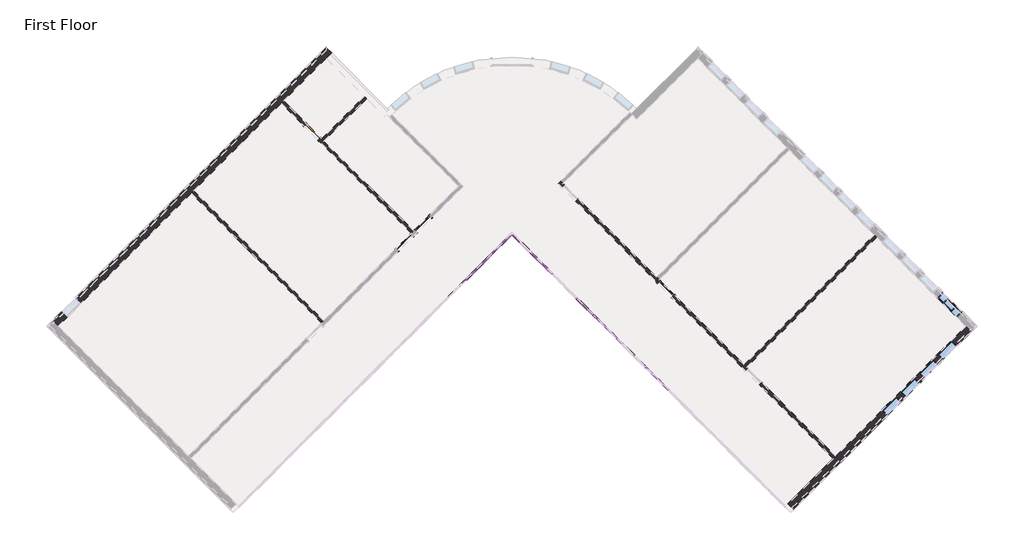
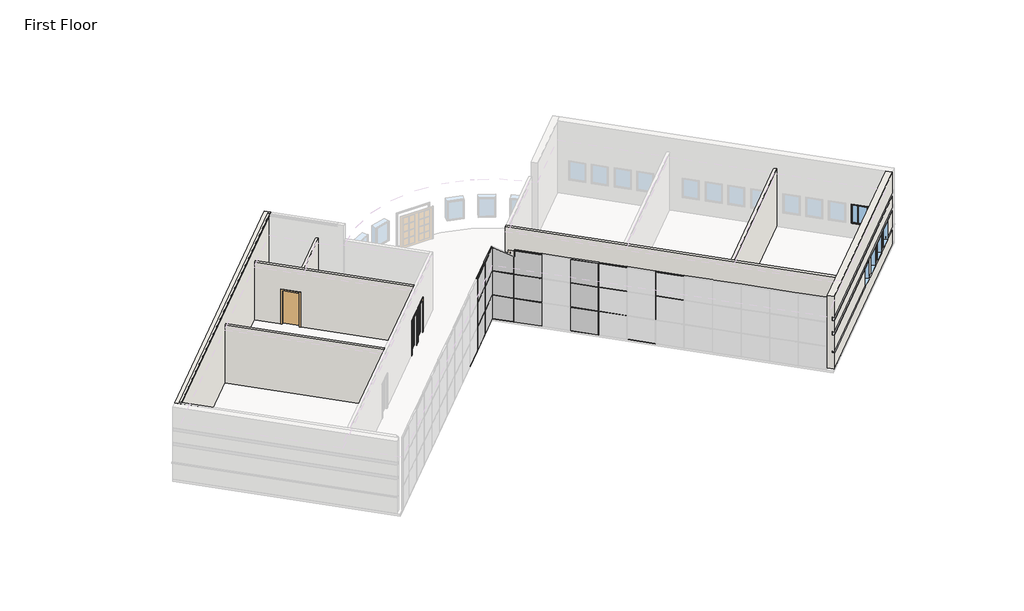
# One storey, part 3 of 5: 32 members, 15 plates, 7 walls, 6 windows, 4 doors.
"""IFC4 building model written with IfcOpenShell, lengths in millimetres."""

from ifc_helpers import new_model, si_unit, origin, origin_with_axes, place, context, project, spatial, polyline, outline, extrude, faceted_brep, transform, mapped, element, save
from components import door_f9494b7c, door_b81abb0e, door_5f5b55da, member_155beb68, member_f5090587, member_42be4715, member_6121af53, member_bd80eb51, member_b8a5b5c0, member_9574b3de, member_6675e4ca, system_panel_glazed_f8555db4, system_panel_glazed_da345f4e, system_panel_glazed_d4009c89, system_panel_glazed_f1e4c5b0, system_panel_glazed_b4114ee2, system_panel_glazed_dc791129, system_panel_solid_99f695d0, system_panel_solid_2f1037e2, system_panel_solid_f673cd79, system_panel_solid_3576f13f, window_15c49d37, window_0e2fc6ce

model = new_model("IFC4")

# Units and contexts
model_context = context("Model", 3, world=origin())
ifc_project = project(units=[si_unit("LENGTHUNIT", "METRE", prefix="MILLI")], contexts=[model_context])

# Site, building, storey
site = spatial("IfcSite", under=ifc_project)
building = spatial("IfcBuilding", under=site)
storey = spatial("IfcBuildingStorey", under=building, Name="First Floor", Elevation=0.0)

# Doors
placement = place(None, origin())
door_shape = door_f9494b7c(model_context)
element("IfcDoor", 1, ObjectType="Single-Flush : 36\" x 84\"", at=placement, inside=storey, context=model_context, shape_type="MappedRepresentation", body=[
    mapped(door_shape, transform((-12710.6349126, 7029.9464017, 0.0), x_axis=(0.7071067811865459, -0.7071067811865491, 0.0), y_axis=(0.7071067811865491, 0.7071067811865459, 0.0), z_axis=(0.0, 0.0, 1.0))),
])
door_2_shape = door_b81abb0e(model_context)
element("IfcDoor", 2, ObjectType="Single-Glass 1 : 36\" x 84\"", at=placement, inside=storey, context=model_context, shape_type="MappedRepresentation", body=[
    mapped(door_2_shape, transform((-8433.7879349, 1890.9948364, 0.0), x_axis=(0.707106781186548, 0.707106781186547, 0.0), y_axis=(-0.707106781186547, 0.707106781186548, 0.0), z_axis=(0.0, 0.0, 1.0))),
])
door_3_shape = door_5f5b55da(model_context)
element("IfcDoor", 3, ObjectType="Single-Glass 1 : 36\" x 84\"", at=placement, inside=storey, context=model_context, shape_type="MappedRepresentation", body=[
    mapped(door_3_shape, transform((-7571.6833473, 2753.0994241, 0.0), x_axis=(-0.707106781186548, -0.707106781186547, 0.0), y_axis=(0.707106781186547, -0.707106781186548, 0.0), z_axis=(0.0, 0.0, 1.0))),
])
element("IfcDoor", 4, ObjectType="Single-Glass 1 : 36\" x 84\"", at=placement, inside=storey, context=model_context, shape_type="MappedRepresentation", body=[
    mapped(door_3_shape, transform((3703.0282127, -264.2666326, 0.0), x_axis=(-0.7071067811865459, 0.7071067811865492, 0.0), y_axis=(-0.7071067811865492, -0.7071067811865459, 0.0), z_axis=(0.0, 0.0, 1.0))),
])

# Members
member_shape = member_155beb68(model_context)
element("IfcMember", 5, ObjectType="Rectangular Mullion : 1.5\" x 2.5\" Rectangular", at=placement, inside=storey, context=model_context, shape_type="MappedRepresentation", body=[
    mapped(member_shape, transform((-4520.6413301, 1244.4163957, 0.0), x_axis=(-0.7071067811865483, -0.7071067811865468, 0.0), y_axis=(-0.7071067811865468, 0.7071067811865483, 0.0), z_axis=(0.0, 0.0, -1.0))),
])
element("IfcMember", 6, ObjectType="Rectangular Mullion : 1.5\" x 2.5\" Rectangular", at=placement, inside=storey, context=model_context, shape_type="MappedRepresentation", body=[
    mapped(member_shape, transform((-5598.2720647, 166.7856612, 0.0), x_axis=(-0.7071067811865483, -0.7071067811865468, 0.0), y_axis=(-0.7071067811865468, 0.7071067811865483, 0.0), z_axis=(0.0, 0.0, -1.0))),
])
element("IfcMember", 7, ObjectType="Rectangular Mullion : 1.5\" x 2.5\" Rectangular", at=placement, inside=storey, context=model_context, shape_type="MappedRepresentation", body=[
    mapped(member_shape, transform((618.3102351, -1739.2737005, 0.0), x_axis=(-0.7071067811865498, 0.7071067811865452, 0.0), y_axis=(0.7071067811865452, 0.7071067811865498, 0.0), z_axis=(0.0, 0.0, -1.0))),
])
element("IfcMember", 8, ObjectType="Rectangular Mullion : 1.5\" x 2.5\" Rectangular", at=placement, inside=storey, context=model_context, shape_type="MappedRepresentation", body=[
    mapped(member_shape, transform((-2614.5819684, 1493.6185031, 0.0), x_axis=(-0.7071067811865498, 0.7071067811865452, 0.0), y_axis=(0.7071067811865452, 0.7071067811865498, 0.0), z_axis=(0.0, 0.0, -1.0))),
])
member_2_shape = member_f5090587(model_context)
element("IfcMember", 9, ObjectType="Rectangular Mullion : 1.5\" x 2.5\" Rectangular", at=placement, inside=storey, context=model_context, shape_type="MappedRepresentation", body=[
    mapped(member_2_shape, transform((-4507.170946, 1257.8867799, 1524.0), x_axis=(0.0, 0.0, 1.0), y_axis=(-0.7071067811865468, 0.7071067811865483, 0.0), z_axis=(-0.7071067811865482, -0.7071067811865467, 0.0))),
])
element("IfcMember", 10, ObjectType="Rectangular Mullion : 1.5\" x 2.5\" Rectangular", at=placement, inside=storey, context=model_context, shape_type="MappedRepresentation", body=[
    mapped(member_2_shape, transform((-4507.170946, 1257.8867799, 3048.0), x_axis=(0.0, 0.0, 1.0), y_axis=(-0.7071067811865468, 0.7071067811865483, 0.0), z_axis=(-0.7071067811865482, -0.7071067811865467, 0.0))),
])
member_3_shape = member_42be4715(model_context)
element("IfcMember", 11, ObjectType="Rectangular Mullion : 1.5\" x 2.5\" Rectangular", at=placement, inside=storey, context=model_context, shape_type="MappedRepresentation", body=[
    mapped(member_3_shape, transform((-5584.8016805, 180.2560454, 1524.0), x_axis=(0.0, 0.0, 1.0), y_axis=(-0.7071067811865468, 0.7071067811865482, 0.0), z_axis=(-0.7071067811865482, -0.7071067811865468, 0.0))),
])
element("IfcMember", 12, ObjectType="Rectangular Mullion : 1.5\" x 2.5\" Rectangular", at=placement, inside=storey, context=model_context, shape_type="MappedRepresentation", body=[
    mapped(member_3_shape, transform((-5584.8016805, 180.2560454, 3048.0), x_axis=(0.0, 0.0, 1.0), y_axis=(-0.7071067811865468, 0.7071067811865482, 0.0), z_axis=(-0.7071067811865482, -0.7071067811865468, 0.0))),
])
element("IfcMember", 13, ObjectType="Rectangular Mullion : 1.5\" x 2.5\" Rectangular", at=placement, inside=storey, context=model_context, shape_type="MappedRepresentation", body=[
    mapped(member_3_shape, transform((631.7806193, -1752.7440847, 1524.0), x_axis=(0.0, 0.0, 1.0), y_axis=(0.707106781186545, 0.70710678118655, 0.0), z_axis=(-0.7071067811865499, 0.7071067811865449, 0.0))),
])
element("IfcMember", 14, ObjectType="Rectangular Mullion : 1.5\" x 2.5\" Rectangular", at=placement, inside=storey, context=model_context, shape_type="MappedRepresentation", body=[
    mapped(member_3_shape, transform((-2601.1115843, 1480.1481189, 1524.0), x_axis=(0.0, 0.0, 1.0), y_axis=(0.7071067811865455, 0.7071067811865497, 0.0), z_axis=(-0.7071067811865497, 0.7071067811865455, 0.0))),
])
element("IfcMember", 15, ObjectType="Rectangular Mullion : 1.5\" x 2.5\" Rectangular", at=placement, inside=storey, context=model_context, shape_type="MappedRepresentation", body=[
    mapped(member_3_shape, transform((2787.0420884, -3908.0055537, 3048.0), x_axis=(0.0, 0.0, 1.0), y_axis=(0.707106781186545, 0.70710678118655, 0.0), z_axis=(-0.7071067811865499, 0.7071067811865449, 0.0))),
])
element("IfcMember", 16, ObjectType="Rectangular Mullion : 1.5\" x 2.5\" Rectangular", at=placement, inside=storey, context=model_context, shape_type="MappedRepresentation", body=[
    mapped(member_3_shape, transform((631.7806193, -1752.7440847, 3048.0), x_axis=(0.0, 0.0, 1.0), y_axis=(0.707106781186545, 0.70710678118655, 0.0), z_axis=(-0.7071067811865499, 0.7071067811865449, 0.0))),
])
element("IfcMember", 17, ObjectType="Rectangular Mullion : 1.5\" x 2.5\" Rectangular", at=placement, inside=storey, context=model_context, shape_type="MappedRepresentation", body=[
    mapped(member_3_shape, transform((-2601.1115843, 1480.1481189, 3048.0), x_axis=(0.0, 0.0, 1.0), y_axis=(0.7071067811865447, 0.7071067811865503, 0.0), z_axis=(-0.7071067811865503, 0.7071067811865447, 0.0))),
])
member_4_shape = member_6121af53(model_context)
element("IfcMember", 18, ObjectType="Rectangular Mullion : 1.5\" x 2.5\" Rectangular", at=placement, inside=storey, context=model_context, shape_type="MappedRepresentation", body=[
    mapped(member_4_shape, transform((-4534.1117143, 1230.9460115, 0.0), x_axis=(0.0, 0.0, -1.0), y_axis=(-0.7071067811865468, 0.7071067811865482, 0.0), z_axis=(0.7071067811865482, 0.7071067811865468, 0.0))),
])
element("IfcMember", 19, ObjectType="Rectangular Mullion : 1.5\" x 2.5\" Rectangular", at=placement, inside=storey, context=model_context, shape_type="MappedRepresentation", body=[
    mapped(member_4_shape, transform((-5611.7424488, 153.315277, 0.0), x_axis=(0.0, 0.0, -1.0), y_axis=(-0.7071067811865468, 0.7071067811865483, 0.0), z_axis=(0.7071067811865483, 0.7071067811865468, 0.0))),
])
element("IfcMember", 20, ObjectType="Rectangular Mullion : 1.5\" x 2.5\" Rectangular", at=placement, inside=storey, context=model_context, shape_type="MappedRepresentation", body=[
    mapped(member_4_shape, transform((2760.10132, -3881.0647854, 0.0), x_axis=(0.0, 0.0, -1.0), y_axis=(0.7071067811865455, 0.7071067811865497, 0.0), z_axis=(0.7071067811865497, -0.7071067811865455, 0.0))),
])
element("IfcMember", 21, ObjectType="Rectangular Mullion : 1.5\" x 2.5\" Rectangular", at=placement, inside=storey, context=model_context, shape_type="MappedRepresentation", body=[
    mapped(member_4_shape, transform((604.839851, -1725.8033163, 0.0), x_axis=(0.0, 0.0, -1.0), y_axis=(0.707106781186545, 0.70710678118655, 0.0), z_axis=(0.70710678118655, -0.707106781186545, 0.0))),
])
member_5_shape = member_bd80eb51(model_context)
element("IfcMember", 22, ObjectType="Rectangular Mullion : 1.5\" x 2.5\" Rectangular", at=placement, inside=storey, context=model_context, shape_type="MappedRepresentation", body=[
    mapped(member_5_shape, transform((-2628.0523526, 1507.0888873, 0.0), x_axis=(0.0, 0.0, -1.0), y_axis=(0.7071067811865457, 0.7071067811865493, 0.0), z_axis=(0.7071067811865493, -0.7071067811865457, 0.0))),
])
member_6_shape = member_b8a5b5c0(model_context)
element("IfcMember", 23, ObjectType="Rectangular Mullion : 1.5\" x 2.5\" Rectangular", at=placement, inside=storey, context=model_context, shape_type="MappedRepresentation", body=[
    mapped(member_6_shape, transform((-4507.170946, 1257.8867799, 4572.0), x_axis=(0.0, 0.0, 1.0), y_axis=(-0.7071067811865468, 0.7071067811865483, 0.0), z_axis=(-0.7071067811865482, -0.7071067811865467, 0.0))),
])
element("IfcMember", 24, ObjectType="Rectangular Mullion : 1.5\" x 2.5\" Rectangular", at=placement, inside=storey, context=model_context, shape_type="MappedRepresentation", body=[
    mapped(member_4_shape, transform((-5584.8016805, 180.2560454, 4572.0), x_axis=(0.0, 0.0, 1.0), y_axis=(-0.7071067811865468, 0.7071067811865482, 0.0), z_axis=(-0.7071067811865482, -0.7071067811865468, 0.0))),
])
element("IfcMember", 25, ObjectType="Rectangular Mullion : 1.5\" x 2.5\" Rectangular", at=placement, inside=storey, context=model_context, shape_type="MappedRepresentation", body=[
    mapped(member_4_shape, transform((2787.0420884, -3908.0055537, 4572.0), x_axis=(0.0, 0.0, 1.0), y_axis=(0.707106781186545, 0.70710678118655, 0.0), z_axis=(-0.7071067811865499, 0.7071067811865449, 0.0))),
])
element("IfcMember", 26, ObjectType="Rectangular Mullion : 1.5\" x 2.5\" Rectangular", at=placement, inside=storey, context=model_context, shape_type="MappedRepresentation", body=[
    mapped(member_4_shape, transform((631.7806193, -1752.7440847, 4572.0), x_axis=(0.0, 0.0, 1.0), y_axis=(0.707106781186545, 0.70710678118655, 0.0), z_axis=(-0.7071067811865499, 0.7071067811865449, 0.0))),
])
element("IfcMember", 27, ObjectType="Rectangular Mullion : 1.5\" x 2.5\" Rectangular", at=placement, inside=storey, context=model_context, shape_type="MappedRepresentation", body=[
    mapped(member_shape, transform((-4520.6413301, 1244.4163957, 1524.0), x_axis=(-0.7071067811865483, -0.7071067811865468, 0.0), y_axis=(-0.7071067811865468, 0.7071067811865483, 0.0), z_axis=(0.0, 0.0, -1.0))),
])
element("IfcMember", 28, ObjectType="Rectangular Mullion : 1.5\" x 2.5\" Rectangular", at=placement, inside=storey, context=model_context, shape_type="MappedRepresentation", body=[
    mapped(member_shape, transform((-5598.2720647, 166.7856612, 1524.0), x_axis=(-0.7071067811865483, -0.7071067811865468, 0.0), y_axis=(-0.7071067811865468, 0.7071067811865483, 0.0), z_axis=(0.0, 0.0, -1.0))),
])
element("IfcMember", 29, ObjectType="Rectangular Mullion : 1.5\" x 2.5\" Rectangular", at=placement, inside=storey, context=model_context, shape_type="MappedRepresentation", body=[
    mapped(member_shape, transform((2773.5717042, -3894.5351696, 1524.0), x_axis=(-0.7071067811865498, 0.7071067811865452, 0.0), y_axis=(0.7071067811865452, 0.7071067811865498, 0.0), z_axis=(0.0, 0.0, -1.0))),
])
element("IfcMember", 30, ObjectType="Rectangular Mullion : 1.5\" x 2.5\" Rectangular", at=placement, inside=storey, context=model_context, shape_type="MappedRepresentation", body=[
    mapped(member_shape, transform((618.3102351, -1739.2737005, 1524.0), x_axis=(-0.7071067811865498, 0.7071067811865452, 0.0), y_axis=(0.7071067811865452, 0.7071067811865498, 0.0), z_axis=(0.0, 0.0, -1.0))),
])
element("IfcMember", 31, ObjectType="Rectangular Mullion : 1.5\" x 2.5\" Rectangular", at=placement, inside=storey, context=model_context, shape_type="MappedRepresentation", body=[
    mapped(member_shape, transform((-4520.6413301, 1244.4163957, 3048.0), x_axis=(-0.7071067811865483, -0.7071067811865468, 0.0), y_axis=(-0.7071067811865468, 0.7071067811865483, 0.0), z_axis=(0.0, 0.0, -1.0))),
])
element("IfcMember", 32, ObjectType="Rectangular Mullion : 1.5\" x 2.5\" Rectangular", at=placement, inside=storey, context=model_context, shape_type="MappedRepresentation", body=[
    mapped(member_shape, transform((-5598.2720647, 166.7856612, 3048.0), x_axis=(-0.7071067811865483, -0.7071067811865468, 0.0), y_axis=(-0.7071067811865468, 0.7071067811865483, 0.0), z_axis=(0.0, 0.0, -1.0))),
])
element("IfcMember", 33, ObjectType="Rectangular Mullion : 1.5\" x 2.5\" Rectangular", at=placement, inside=storey, context=model_context, shape_type="MappedRepresentation", body=[
    mapped(member_shape, transform((2773.5717042, -3894.5351696, 3048.0), x_axis=(-0.7071067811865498, 0.7071067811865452, 0.0), y_axis=(0.7071067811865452, 0.7071067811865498, 0.0), z_axis=(0.0, 0.0, -1.0))),
])
element("IfcMember", 34, ObjectType="Rectangular Mullion : 1.5\" x 2.5\" Rectangular", at=placement, inside=storey, context=model_context, shape_type="MappedRepresentation", body=[
    mapped(member_shape, transform((618.3102351, -1739.2737005, 3048.0), x_axis=(-0.7071067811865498, 0.7071067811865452, 0.0), y_axis=(0.7071067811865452, 0.7071067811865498, 0.0), z_axis=(0.0, 0.0, -1.0))),
])
member_7_shape = member_9574b3de(model_context)
element("IfcMember", 35, ObjectType="Rectangular Mullion : 1.5\" x 2.5\" Rectangular", at=placement, inside=storey, context=model_context, shape_type="MappedRepresentation", body=[
    mapped(member_7_shape, transform((-2553.9652396, 1433.0017743, 4572.0), x_axis=(0.0, 0.0, 1.0), y_axis=(0.7071067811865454, 0.7071067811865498, 0.0), z_axis=(-0.7071067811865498, 0.7071067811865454, 0.0))),
])
member_8_shape = member_6675e4ca(model_context)
element("IfcMember", 36, ObjectType="Rectangular Mullion : 1.5\" x 2.5\" Rectangular", at=placement, inside=storey, context=model_context, shape_type="MappedRepresentation", body=[
    mapped(member_8_shape, transform((-2580.906008, 1459.9425426, 4165.6), x_axis=(-0.7071067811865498, 0.7071067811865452, 0.0), y_axis=(0.7071067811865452, 0.7071067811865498, 0.0), z_axis=(0.0, 0.0, -1.0))),
])

# Plates
system_panel_glazed_shape = system_panel_glazed_f8555db4(model_context)
element("IfcPlate", 37, ObjectType="System Panel : Glazed", at=placement, inside=storey, context=model_context, shape_type="MappedRepresentation", body=[
    mapped(system_panel_glazed_shape, transform((-3988.561155, 1776.4965709, 38.1), x_axis=(-0.7071067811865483, -0.7071067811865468, 0.0), y_axis=(0.7071067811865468, -0.7071067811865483, 0.0), z_axis=(0.0, 0.0, 1.0))),
])
system_panel_glazed_2_shape = system_panel_glazed_da345f4e(model_context)
element("IfcPlate", 38, ObjectType="System Panel : Glazed", at=placement, inside=storey, context=model_context, shape_type="MappedRepresentation", body=[
    mapped(system_panel_glazed_2_shape, transform((79.4948679, -1200.4583332, 38.1), x_axis=(-0.7071067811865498, 0.7071067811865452, 0.0), y_axis=(-0.7071067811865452, -0.7071067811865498, 0.0), z_axis=(0.0, 0.0, 1.0))),
])
element("IfcPlate", 39, ObjectType="System Panel : Glazed", at=placement, inside=storey, context=model_context, shape_type="MappedRepresentation", body=[
    mapped(system_panel_glazed_2_shape, transform((-5059.4566974, 705.6010285, 38.1), x_axis=(-0.7071067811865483, -0.7071067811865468, 0.0), y_axis=(0.7071067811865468, -0.7071067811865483, 0.0), z_axis=(0.0, 0.0, 1.0))),
])
element("IfcPlate", 40, ObjectType="System Panel : Glazed", at=placement, inside=storey, context=model_context, shape_type="MappedRepresentation", body=[
    mapped(system_panel_glazed_2_shape, transform((-2075.7666012, 954.8031358, 38.1), x_axis=(-0.7071067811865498, 0.7071067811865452, 0.0), y_axis=(-0.7071067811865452, -0.7071067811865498, 0.0), z_axis=(0.0, 0.0, 1.0))),
])
system_panel_glazed_3_shape = system_panel_glazed_d4009c89(model_context)
element("IfcPlate", 41, ObjectType="System Panel : Glazed", at=placement, inside=storey, context=model_context, shape_type="MappedRepresentation", body=[
    mapped(system_panel_glazed_3_shape, transform((-3988.561155, 1776.4965709, 1543.05), x_axis=(-0.7071067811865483, -0.7071067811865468, 0.0), y_axis=(0.7071067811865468, -0.7071067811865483, 0.0), z_axis=(0.0, 0.0, 1.0))),
])
system_panel_glazed_4_shape = system_panel_glazed_f1e4c5b0(model_context)
element("IfcPlate", 42, ObjectType="System Panel : Glazed", at=placement, inside=storey, context=model_context, shape_type="MappedRepresentation", body=[
    mapped(system_panel_glazed_4_shape, transform((79.4948679, -1200.4583332, 1543.05), x_axis=(-0.7071067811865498, 0.7071067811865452, 0.0), y_axis=(-0.7071067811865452, -0.7071067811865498, 0.0), z_axis=(0.0, 0.0, 1.0))),
])
element("IfcPlate", 43, ObjectType="System Panel : Glazed", at=placement, inside=storey, context=model_context, shape_type="MappedRepresentation", body=[
    mapped(system_panel_glazed_4_shape, transform((-5059.4566974, 705.6010285, 1543.05), x_axis=(-0.7071067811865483, -0.7071067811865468, 0.0), y_axis=(0.7071067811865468, -0.7071067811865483, 0.0), z_axis=(0.0, 0.0, 1.0))),
])
element("IfcPlate", 44, ObjectType="System Panel : Glazed", at=placement, inside=storey, context=model_context, shape_type="MappedRepresentation", body=[
    mapped(system_panel_glazed_4_shape, transform((-2075.7666012, 954.8031358, 1543.05), x_axis=(-0.7071067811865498, 0.7071067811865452, 0.0), y_axis=(-0.7071067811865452, -0.7071067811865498, 0.0), z_axis=(0.0, 0.0, 1.0))),
])
system_panel_glazed_5_shape = system_panel_glazed_b4114ee2(model_context)
element("IfcPlate", 45, ObjectType="System Panel : Glazed", at=placement, inside=storey, context=model_context, shape_type="MappedRepresentation", body=[
    mapped(system_panel_glazed_5_shape, transform((-3022.0610899, 1901.0976246, 38.1), x_axis=(-0.7071067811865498, 0.7071067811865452, 0.0), y_axis=(-0.7071067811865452, -0.7071067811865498, 0.0), z_axis=(0.0, 0.0, 1.0))),
])
system_panel_glazed_6_shape = system_panel_glazed_dc791129(model_context)
element("IfcPlate", 46, ObjectType="System Panel : Glazed", at=placement, inside=storey, context=model_context, shape_type="MappedRepresentation", body=[
    mapped(system_panel_glazed_6_shape, transform((-3022.0610899, 1901.0976246, 1543.05), x_axis=(-0.7071067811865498, 0.7071067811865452, 0.0), y_axis=(-0.7071067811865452, -0.7071067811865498, 0.0), z_axis=(0.0, 0.0, 1.0))),
])
system_panel_solid_shape = system_panel_solid_99f695d0(model_context)
element("IfcPlate", 47, ObjectType="System Panel : Solid", at=placement, inside=storey, context=model_context, shape_type="MappedRepresentation", body=[
    mapped(system_panel_solid_shape, transform((-3988.561155, 1776.4965709, 3067.05), x_axis=(-0.7071067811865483, -0.7071067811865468, 0.0), y_axis=(0.7071067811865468, -0.7071067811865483, 0.0), z_axis=(0.0, 0.0, 1.0))),
])
system_panel_solid_2_shape = system_panel_solid_2f1037e2(model_context)
element("IfcPlate", 48, ObjectType="System Panel : Solid", at=placement, inside=storey, context=model_context, shape_type="MappedRepresentation", body=[
    mapped(system_panel_solid_2_shape, transform((79.4948679, -1200.4583332, 3067.05), x_axis=(-0.7071067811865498, 0.7071067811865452, 0.0), y_axis=(-0.7071067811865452, -0.7071067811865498, 0.0), z_axis=(0.0, 0.0, 1.0))),
])
element("IfcPlate", 49, ObjectType="System Panel : Solid", at=placement, inside=storey, context=model_context, shape_type="MappedRepresentation", body=[
    mapped(system_panel_solid_2_shape, transform((-5059.4566974, 705.6010285, 3067.05), x_axis=(-0.7071067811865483, -0.7071067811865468, 0.0), y_axis=(0.7071067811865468, -0.7071067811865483, 0.0), z_axis=(0.0, 0.0, 1.0))),
])
system_panel_solid_3_shape = system_panel_solid_f673cd79(model_context)
element("IfcPlate", 50, ObjectType="System Panel : Solid", at=placement, inside=storey, context=model_context, shape_type="MappedRepresentation", body=[
    mapped(system_panel_solid_3_shape, transform((-2075.7666012, 954.8031358, 3067.05), x_axis=(-0.7071067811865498, 0.7071067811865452, 0.0), y_axis=(-0.7071067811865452, -0.7071067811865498, 0.0), z_axis=(0.0, 0.0, 1.0))),
])
system_panel_solid_4_shape = system_panel_solid_3576f13f(model_context)
element("IfcPlate", 51, ObjectType="System Panel : Solid", at=placement, inside=storey, context=model_context, shape_type="MappedRepresentation", body=[
    mapped(system_panel_solid_4_shape, transform((-3022.0610899, 1901.0976246, 3067.05), x_axis=(-0.7071067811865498, 0.7071067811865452, 0.0), y_axis=(-0.7071067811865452, -0.7071067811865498, 0.0), z_axis=(0.0, 0.0, 1.0))),
])

# Walls
element("IfcWall", 52, ObjectType="Exterior - Split Face and CMU on Mtl. Stud", at=placement, inside=storey, context=model_context, shape_type="Brep", body=[
    faceted_brep([(17611.1998802, -1988.4758079, 0.0), (11574.2227029, -8025.4529853, 0.0), (11464.2145654, -8135.4611227, 0.0), (9363.9571651, -10235.718523, 0.0), (9363.9571651, -10235.718523, 4572.0), (17611.1998802, -1988.4758079, 4572.0), (16301.2050186, -3298.4706695, 2133.6), (16301.2050186, -3298.4706695, 914.4), (16947.7834593, -2651.8922288, 914.4), (16947.7834593, -2651.8922288, 2133.6), (15439.100431, -4160.5752571, 2133.6), (15439.100431, -4160.5752571, 914.4), (16085.6788717, -3513.9968164, 914.4), (16085.6788717, -3513.9968164, 2133.6), (14576.9958433, -5022.6798448, 2133.6), (14576.9958433, -5022.6798448, 914.4), (15223.574284, -4376.1014041, 914.4), (15223.574284, -4376.1014041, 2133.6), (13714.8912557, -5884.7844324, 2133.6), (13714.8912557, -5884.7844324, 914.4), (14361.4696964, -5238.2059917, 914.4), (14361.4696964, -5238.2059917, 2133.6), (17860.4019876, -2237.6779152, 4572.0), (9613.1592724, -10484.9206304, 4572.0), (9613.1592724, -10484.9206304, 3251.2), (17860.4019876, -2237.6779152, 3251.2), (9613.1592724, -10484.9206304, 0.0), (17860.4019876, -2237.6779152, 0.0), (17860.4019876, -2237.6779152, 1016.0), (17196.9855667, -2901.0943362, 1016.0), (17196.9855667, -2901.0943362, 914.4), (16550.4071259, -3547.6727769, 914.4), (16550.4071259, -3547.6727769, 1016.0), (16334.880979, -3763.1989238, 1016.0), (16334.880979, -3763.1989238, 914.4), (15688.3025383, -4409.7773645, 914.4), (15688.3025383, -4409.7773645, 1016.0), (15472.7763914, -4625.3035114, 1016.0), (15472.7763914, -4625.3035114, 914.4), (14826.1979507, -5271.8819521, 914.4), (14826.1979507, -5271.8819521, 1016.0), (14610.6718038, -5487.408099, 1016.0), (14610.6718038, -5487.408099, 914.4), (13964.0933631, -6133.9865398, 914.4), (13964.0933631, -6133.9865398, 1016.0), (9613.1592724, -10484.9206304, 1016.0), (9613.1592724, -10484.9206304, 1085.85), (13964.0933631, -6133.9865398, 1085.85), (13964.0933631, -6133.9865398, 2133.6), (9613.1592724, -10484.9206304, 2133.6), (17196.9855667, -2901.0943362, 1085.85), (17860.4019876, -2237.6779152, 1085.85), (17860.4019876, -2237.6779152, 2133.6), (17196.9855667, -2901.0943362, 2133.6), (9613.1592724, -10484.9206304, 2336.8), (17860.4019876, -2237.6779152, 2336.8), (17860.4019876, -2237.6779152, 3048.0), (9613.1592724, -10484.9206304, 3048.0), (16550.4071259, -3547.6727769, 1085.85), (16550.4071259, -3547.6727769, 2133.6), (16334.880979, -3763.1989238, 2133.6), (16334.880979, -3763.1989238, 1085.85), (15688.3025383, -4409.7773645, 1085.85), (15688.3025383, -4409.7773645, 2133.6), (15472.7763914, -4625.3035114, 2133.6), (15472.7763914, -4625.3035114, 1085.85), (14826.1979507, -5271.8819521, 1085.85), (14826.1979507, -5271.8819521, 2133.6), (14610.6718038, -5487.408099, 2133.6), (14610.6718038, -5487.408099, 1085.85), (9548.0524155, -10419.8137735, 0.0), (9548.0524155, -10419.8137735, 1016.0), (9548.0524155, -10419.8137735, 1085.85), (9548.0524155, -10419.8137735, 2133.6), (9548.0524155, -10419.8137735, 2336.8), (9548.0524155, -10419.8137735, 3048.0), (9548.0524155, -10419.8137735, 3251.2), (17795.2951307, -2172.5710583, 0.0), (13898.9865062, -6068.8796829, 1085.85), (13898.9865062, -6068.8796829, 1016.0), (13898.9865062, -6068.8796829, 2133.6), (14545.5649469, -5422.3012422, 2133.6), (14761.0910938, -5206.7750953, 2133.6), (15407.6695345, -4560.1966545, 2133.6), (15623.1956814, -4344.6705076, 2133.6), (16269.7741222, -3698.0920669, 2133.6), (16485.3002691, -3482.56592, 2133.6), (17131.8787098, -2835.9874793, 2133.6), (17795.2951307, -2172.5710583, 2133.6), (17795.2951307, -2172.5710583, 2336.8), (17795.2951307, -2172.5710583, 3048.0), (17795.2951307, -2172.5710583, 3251.2), (17795.2951307, -2172.5710583, 1085.85), (17795.2951307, -2172.5710583, 1016.0), (17131.8787098, -2835.9874793, 1085.85), (17131.8787098, -2835.9874793, 1016.0), (16485.3002691, -3482.56592, 1085.85), (16485.3002691, -3482.56592, 1016.0), (15623.1956814, -4344.6705076, 1085.85), (15623.1956814, -4344.6705076, 1016.0), (16269.7741222, -3698.0920669, 1016.0), (16269.7741222, -3698.0920669, 1085.85), (14761.0910938, -5206.7750953, 1085.85), (14761.0910938, -5206.7750953, 1016.0), (15407.6695345, -4560.1966545, 1016.0), (15407.6695345, -4560.1966545, 1085.85), (14545.5649469, -5422.3012422, 1016.0), (14545.5649469, -5422.3012422, 1085.85)], [[[0, 1, 2, 3, 4, 5], [6, 7, 8, 9], [10, 11, 12, 13], [14, 15, 16, 17], [18, 19, 20, 21]], [[22, 23, 24, 25]], [[26, 27, 28, 29, 30, 31, 32, 33, 34, 35, 36, 37, 38, 39, 40, 41, 42, 43, 44, 45]], [[46, 47, 48, 49]], [[50, 51, 52, 53]], [[54, 55, 56, 57]], [[58, 59, 60, 61]], [[62, 63, 64, 65]], [[66, 67, 68, 69]], [[4, 3, 70, 26, 45, 71, 72, 46, 49, 73, 74, 54, 57, 75, 76, 24, 23]], [[5, 4, 23, 22]], [[3, 2, 1, 0, 77, 70]], [[72, 78, 47, 46]], [[79, 71, 45, 44]], [[78, 72, 71, 79]], [[74, 73, 80, 81, 82, 83, 84, 85, 86, 87, 88, 89]], [[75, 90, 91, 76]], [[0, 5, 22, 25, 91, 90, 56, 55, 89, 88, 52, 51, 92, 93, 28, 27, 77]], [[27, 26, 70, 77]], [[51, 50, 94, 92]], [[29, 28, 93, 95]], [[52, 88, 87, 53]], [[49, 48, 80, 73]], [[86, 85, 60, 59]], [[84, 83, 64, 63]], [[82, 81, 68, 67]], [[74, 89, 55, 54]], [[90, 75, 57, 56]], [[76, 91, 25, 24]], [[7, 6, 86, 59, 58, 96, 97, 32, 31]], [[8, 7, 31, 30]], [[9, 8, 30, 29, 95, 94, 50, 53, 87]], [[6, 9, 87, 86]], [[11, 10, 84, 63, 62, 98, 99, 36, 35]], [[12, 11, 35, 34]], [[13, 12, 34, 33, 100, 101, 61, 60, 85]], [[10, 13, 85, 84]], [[15, 14, 82, 67, 66, 102, 103, 40, 39]], [[16, 15, 39, 38]], [[17, 16, 38, 37, 104, 105, 65, 64, 83]], [[14, 17, 83, 82]], [[19, 18, 80, 48, 47, 78, 79, 44, 43]], [[20, 19, 43, 42]], [[21, 20, 42, 41, 106, 107, 69, 68, 81]], [[18, 21, 81, 80]], [[92, 94, 95, 93]], [[101, 96, 58, 61]], [[97, 100, 33, 32]], [[96, 101, 100, 97]], [[105, 98, 62, 65]], [[99, 104, 37, 36]], [[98, 105, 104, 99]], [[107, 102, 66, 69]], [[103, 106, 41, 40]], [[102, 107, 106, 103]]]),
])
element("IfcWall", 53, ObjectType="Exterior - Split Face and CMU on Mtl. Stud", at=placement, inside=storey, context=model_context, shape_type="Brep", body=[
    faceted_brep([(-11814.8543645, 10693.8908991, 0.0), (-11814.8543645, 10693.8908991, 1016.0), (-11879.9612214, 10628.7840422, 1016.0), (-11879.9612214, 10628.7840422, 1085.85), (-11814.8543645, 10693.8908991, 1085.85), (-11814.8543645, 10693.8908991, 2133.6), (-11879.9612214, 10628.7840422, 2133.6), (-11879.9612214, 10628.7840422, 2336.8), (-11814.8543645, 10693.8908991, 2336.8), (-11814.8543645, 10693.8908991, 3048.0), (-11879.9612214, 10628.7840422, 3048.0), (-11879.9612214, 10628.7840422, 3251.2), (-11814.8543645, 10693.8908991, 3251.2), (-11814.8543645, 10693.8908991, 4572.0), (-12064.0564718, 10444.6887918, 4572.0), (-24497.2210715, -1988.4758079, 4572.0), (-24497.2210715, -1988.4758079, 0.0), (-18318.8048602, 4189.9404034, 0.0), (-18208.7967227, 4299.9485409, 0.0), (-14149.720956, 8359.0243076, 0.0), (-14039.7128185, 8469.0324451, 0.0), (-12064.0564718, 10444.6887918, 0.0), (-24083.0067579, -1574.2614943, 914.4), (-24083.0067579, -1574.2614943, 2133.6), (-23436.4283172, -927.6830536, 2133.6), (-23436.4283172, -927.6830536, 914.4), (-12064.0564718, 10943.0930065, 1085.85), (-23685.6304245, -678.4809462, 1085.85), (-23685.6304245, -678.4809462, 2133.6), (-12064.0564718, 10943.0930065, 2133.6), (-23685.6304245, -678.4809462, 1016.0), (-12064.0564718, 10943.0930065, 1016.0), (-12064.0564718, 10943.0930065, 0.0), (-24746.4231788, -1739.2737005, 0.0), (-24746.4231788, -1739.2737005, 1016.0), (-24332.2088652, -1325.0593869, 1016.0), (-24332.2088652, -1325.0593869, 914.4), (-23685.6304245, -678.4809462, 914.4), (-24332.2088652, -1325.0593869, 1085.85), (-24746.4231788, -1739.2737005, 1085.85), (-24746.4231788, -1739.2737005, 2133.6), (-24332.2088652, -1325.0593869, 2133.6), (-24746.4231788, -1739.2737005, 3251.2), (-24746.4231788, -1739.2737005, 4572.0), (-12064.0564718, 10943.0930065, 4572.0), (-12064.0564718, 10943.0930065, 3251.2), (-12064.0564718, 10943.0930065, 2336.8), (-24746.4231788, -1739.2737005, 2336.8), (-24746.4231788, -1739.2737005, 3048.0), (-12064.0564718, 10943.0930065, 3048.0), (-12064.0564718, 10812.8792927, 1085.85), (-23620.5235676, -743.5878031, 1085.85), (-23620.5235676, -743.5878031, 1016.0), (-12064.0564718, 10812.8792927, 1016.0), (-24681.3163219, -1804.3805574, 2336.8), (-12064.0564718, 10812.8792927, 2336.8), (-12064.0564718, 10812.8792927, 2133.6), (-23620.5235676, -743.5878031, 2133.6), (-24267.1020084, -1390.1662438, 2133.6), (-24681.3163219, -1804.3805574, 2133.6), (-12064.0564718, 10812.8792927, 3048.0), (-24681.3163219, -1804.3805574, 3048.0), (-24681.3163219, -1804.3805574, 3251.2), (-12064.0564718, 10812.8792927, 3251.2), (-24681.3163219, -1804.3805574, 1085.85), (-24681.3163219, -1804.3805574, 1016.0), (-24267.1020084, -1390.1662438, 1085.85), (-24267.1020084, -1390.1662438, 1016.0)], [[[0, 1, 2, 3, 4, 5, 6, 7, 8, 9, 10, 11, 12, 13, 14, 15, 16, 17, 18, 19, 20, 21], [22, 23, 24, 25]], [[26, 27, 28, 29]], [[30, 31, 32, 33, 34, 35, 36, 37]], [[38, 39, 40, 41]], [[42, 43, 44, 45]], [[46, 47, 48, 49]], [[50, 51, 27, 26, 4, 3]], [[52, 53, 2, 1, 31, 30]], [[51, 50, 53, 52]], [[54, 55, 56, 57, 58, 59]], [[60, 61, 62, 63]], [[34, 33, 16, 15, 43, 42, 62, 61, 48, 47, 54, 59, 40, 39, 64, 65]], [[39, 38, 66, 64]], [[35, 34, 65, 67]], [[40, 59, 58, 41]], [[29, 28, 57, 56, 6, 5]], [[55, 54, 47, 46, 8, 7]], [[61, 60, 10, 9, 49, 48]], [[63, 62, 42, 45, 12, 11]], [[15, 14, 13, 44, 43]], [[8, 46, 49, 9]], [[13, 12, 45, 44]], [[1, 0, 32, 31]], [[5, 4, 26, 29]], [[56, 55, 7, 6]], [[60, 63, 11, 10]], [[23, 22, 36, 35, 67, 66, 38, 41, 58]], [[37, 36, 22, 25]], [[25, 24, 57, 28, 27, 51, 52, 30, 37]], [[24, 23, 58, 57]], [[64, 66, 67, 65]], [[53, 50, 3, 2]], [[0, 21, 20, 19, 18, 17, 16, 33, 32]]]),
    faceted_brep([(-12064.0564718, 10444.6887918, 4689.475), (-24497.2210715, -1988.4758079, 4689.475), (-24497.2210715, -1988.4758079, 4639.3965909), (-12064.0564718, 10444.6887918, 4639.3965909), (-11988.6657733, 10520.0794903, 4653.9354839), (-24572.61177, -1913.0851093, 4653.9354839), (-12064.0564718, 10595.4701889, 4653.9354839)], [[[0, 1, 2, 3, 4]], [[2, 1, 5]], [[1, 0, 6, 5]], [[0, 4, 6]], [[6, 3, 2, 5]], [[3, 6, 4]]]),
])
element("IfcWall", 54, ObjectType="Interior - 6 1/8\" Partition (2-hr)", at=placement, inside=storey, context=model_context, shape_type="Brep", body=[
    faceted_brep([(-8002.7356411, 2432.0552677, 0.0), (-12169.5744813, 6598.8941079, 0.0), (-12279.5826187, 6708.9022454, 0.0), (-12332.3416235, 6761.6612501, 0.0), (-12332.3416235, 6761.6612501, 2133.6), (-12978.9200642, 7408.2396908, 2133.6), (-12978.9200642, 7408.2396908, 0.0), (-14039.7128185, 8469.0324451, 0.0), (-14039.7128185, 8469.0324451, 3657.6), (-12279.5826187, 6708.9022454, 3657.6), (-12169.5744813, 6598.8941079, 3657.6), (-8002.7356411, 2432.0552677, 3657.6), (-12442.3497609, 6651.6531126, 2133.6), (-12442.3497609, 6651.6531126, 0.0), (-8112.7437786, 2322.0471303, 0.0), (-8112.7437786, 2322.0471303, 3657.6), (-14149.720956, 8359.0243076, 3657.6), (-14149.720956, 8359.0243076, 0.0), (-13088.9282017, 7298.2315533, 0.0), (-13088.9282017, 7298.2315533, 2133.6)], [[[0, 1, 2, 3, 4, 5, 6, 7, 8, 9, 10, 11]], [[12, 13, 14, 15, 16, 17, 18, 19]], [[18, 17, 7, 6]], [[14, 13, 3, 2, 1, 0]], [[11, 10, 9, 8, 16, 15]], [[8, 7, 17, 16]], [[0, 11, 15, 14]], [[4, 3, 13, 12]], [[5, 4, 12, 19]], [[6, 5, 19, 18]]]),
])
element("IfcWall", 55, ObjectType="Interior - 6 1/8\" Partition (2-hr)", at=placement, inside=storey, context=model_context, shape_type="SweptSolid", body=[
    extrude(outline(polyline([(-10193.9181346, 8574.5504545), (-12169.5744813, 6598.8941079), (-12279.5826187, 6708.9022454), (-10303.9262721, 8684.558592), (-10193.9181346, 8574.5504545)])), origin_with_axes(), (0.0, 0.0, 1.0), 3657.6),
])
element("IfcWall", 56, ObjectType="Interior - 6 1/8\" Partition (2-hr)", at=placement, inside=storey, context=model_context, shape_type="SweptSolid", body=[
    extrude(outline(polyline([(-18208.7967227, 4299.9485409), (-12171.8195453, -1737.0286365), (-12281.8276828, -1847.036774), (-18318.8048602, 4189.9404034), (-18208.7967227, 4299.9485409)])), origin_with_axes(), (0.0, 0.0, 1.0), 3657.6),
])
element("IfcWall", 57, ObjectType="Interior - 6 1/8\" Partition (2-hr)", at=placement, inside=storey, context=model_context, shape_type="Brep", body=[
    faceted_brep([(7496.0638919, -3947.2941743, 2133.6), (7496.0638919, -3947.2941743, 0.0), (7443.3048872, -3894.5351696, 0.0), (7333.2967497, -3784.5270321, 0.0), (4081.3215018, -532.5517842, 0.0), (4081.3215018, -532.5517842, 2133.6), (3434.7430611, 114.0266565, 2133.6), (3434.7430611, 114.0266565, 0.0), (3381.9840564, 166.7856612, 0.0), (3271.9759189, 276.7937987, 0.0), (-378.4981943, 3927.2679119, 0.0), (-378.4981943, 3927.2679119, 2133.6), (-1025.076635, 4573.8463526, 2133.6), (-1025.076635, 4573.8463526, 0.0), (-1077.8356397, 4626.6053573, 0.0), (-1187.8437772, 4736.6134948, 0.0), (-1187.8437772, 4736.6134948, 3657.6), (-1077.8356397, 4626.6053573, 3657.6), (3271.9759189, 276.7937987, 3657.6), (3381.9840564, 166.7856612, 3657.6), (7333.2967497, -3784.5270321, 3657.6), (7443.3048872, -3894.5351696, 3657.6), (11574.2227029, -8025.4529853, 3657.6), (11574.2227029, -8025.4529853, 0.0), (8142.6423326, -4593.872615, 0.0), (8142.6423326, -4593.872615, 2133.6), (3971.3133643, -642.5599217, 0.0), (7386.0557544, -4057.3023118, 0.0), (7386.0557544, -4057.3023118, 2133.6), (8032.6341951, -4703.8807525, 2133.6), (8032.6341951, -4703.8807525, 0.0), (11464.2145654, -8135.4611227, 0.0), (11464.2145654, -8135.4611227, 3657.6), (-1297.8519147, 4626.6053573, 3657.6), (-1297.8519147, 4626.6053573, 0.0), (-1135.0847725, 4463.8382151, 0.0), (-1135.0847725, 4463.8382151, 2133.6), (-488.5063318, 3817.2597744, 2133.6), (-488.5063318, 3817.2597744, 0.0), (3324.7349236, 4.018519, 0.0), (3324.7349236, 4.018519, 2133.6), (3971.3133643, -642.5599217, 2133.6)], [[[0, 1, 2, 3, 4, 5, 6, 7, 8, 9, 10, 11, 12, 13, 14, 15, 16, 17, 18, 19, 20, 21, 22, 23, 24, 25]], [[26, 27, 28, 29, 30, 31, 32, 33, 34, 35, 36, 37, 38, 39, 40, 41]], [[15, 14, 13, 35, 34]], [[10, 9, 8, 7, 39, 38]], [[24, 23, 31, 30]], [[4, 3, 2, 1, 27, 26]], [[22, 21, 20, 19, 18, 17, 16, 33, 32]], [[23, 22, 32, 31]], [[16, 15, 34, 33]], [[36, 35, 13, 12]], [[37, 36, 12, 11]], [[38, 37, 11, 10]], [[40, 39, 7, 6]], [[41, 40, 6, 5]], [[26, 41, 5, 4]], [[28, 27, 1, 0]], [[29, 28, 0, 25]], [[30, 29, 25, 24]]]),
])
element("IfcWall", 58, ObjectType="Interior - 6 1/8\" Partition (2-hr)", at=placement, inside=storey, context=model_context, shape_type="SweptSolid", body=[
    extrude(outline(polyline([(7333.2967497, -3784.5270321), (13370.2739271, 2252.4501453), (13480.2820645, 2142.4420078), (7443.3048872, -3894.5351696), (7333.2967497, -3784.5270321)])), origin_with_axes(), (0.0, 0.0, 1.0), 3657.6),
])

# Windows
window_shape = window_15c49d37(model_context)
element("IfcWindow", 59, ObjectType="Fixed : 36\" x 48\"", at=placement, inside=storey, context=model_context, shape_type="MappedRepresentation", body=[
    mapped(window_shape, transform((16722.1545243, -850.2283445, 0.0), x_axis=(-0.7071067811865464, 0.7071067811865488, 0.0), y_axis=(-0.7071067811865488, -0.7071067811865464, 0.0), z_axis=(0.0, 0.0, 1.0))),
])
window_2_shape = window_0e2fc6ce(model_context)
element("IfcWindow", 60, ObjectType="Fixed : 36\" x 48\"", at=placement, inside=storey, context=model_context, shape_type="MappedRepresentation", body=[
    mapped(window_2_shape, transform((16971.3566316, -1099.4304519, 0.0), x_axis=(-0.7071067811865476, 0.7071067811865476, 0.0), y_axis=(-0.7071067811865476, -0.7071067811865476, 0.0), z_axis=(0.0, 0.0, 1.0))),
])
element("IfcWindow", 61, ObjectType="Fixed : 36\" x 48\"", at=placement, inside=storey, context=model_context, shape_type="MappedRepresentation", body=[
    mapped(window_2_shape, transform((14135.8407614, -5713.0370341, 0.0), x_axis=(-0.7071067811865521, -0.707106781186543, 0.0), y_axis=(0.707106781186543, -0.7071067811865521, 0.0), z_axis=(0.0, 0.0, 1.0))),
])
element("IfcWindow", 62, ObjectType="Fixed : 36\" x 48\"", at=placement, inside=storey, context=model_context, shape_type="MappedRepresentation", body=[
    mapped(window_2_shape, transform((14997.945349, -4850.9324465, 0.0), x_axis=(-0.7071067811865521, -0.707106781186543, 0.0), y_axis=(0.707106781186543, -0.7071067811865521, 0.0), z_axis=(0.0, 0.0, 1.0))),
])
element("IfcWindow", 63, ObjectType="Fixed : 36\" x 48\"", at=placement, inside=storey, context=model_context, shape_type="MappedRepresentation", body=[
    mapped(window_2_shape, transform((15860.0499366, -3988.8278588, 0.0), x_axis=(-0.7071067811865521, -0.707106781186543, 0.0), y_axis=(0.707106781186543, -0.7071067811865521, 0.0), z_axis=(0.0, 0.0, 1.0))),
])
element("IfcWindow", 64, ObjectType="Fixed : 36\" x 48\"", at=placement, inside=storey, context=model_context, shape_type="MappedRepresentation", body=[
    mapped(window_2_shape, transform((16722.1545243, -3126.7232712, 0.0), x_axis=(-0.7071067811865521, -0.707106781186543, 0.0), y_axis=(0.707106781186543, -0.7071067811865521, 0.0), z_axis=(0.0, 0.0, 1.0))),
])

save(model, "model.ifc")
